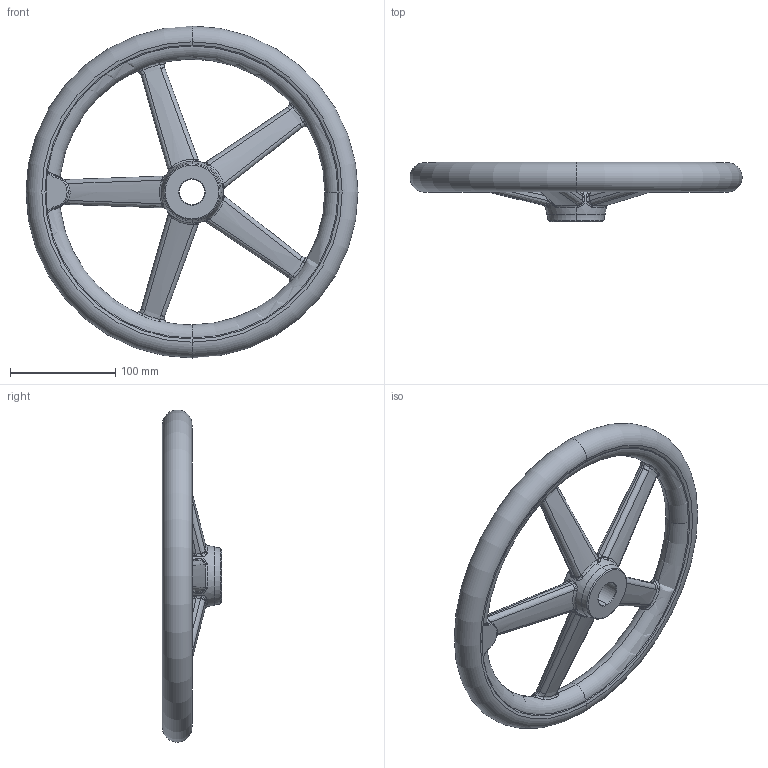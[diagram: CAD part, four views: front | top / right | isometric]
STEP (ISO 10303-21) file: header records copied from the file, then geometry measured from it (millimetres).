
FILE_DESCRIPTION (( 'STEP AP203' ), '1' );
FILE_NAME ('din950_a4_315x24.step', '2010-03-23T09:59:21', ( '_' ), ( '_' ), 'SwSTEP 2.0', 'SolidWorks 2010', '' );
FILE_SCHEMA (( 'CONFIG_CONTROL_DESIGN' ));
Length unit declared in the file: millimetre
Products named in the file (1): din950_a4_315x24
Bounding box: 314.89 x 56 x 314.89 mm (x, y, z)
Volume: 851680.7 mm3; surface area: 127855.6 mm2
Topology: 1 solids, 1 shells, 267 faces, 664 edges, 345 vertices
Faces by surface type: bspline 208, torus 20, cone 17, plane 14, cylinder 8
Entity records: 51405 total; most frequent: CARTESIAN_POINT 46547, ORIENTED_EDGE 1240, EDGE_CURVE 620, DIRECTION 579, B_SPLINE_CURVE_WITH_KNOTS 379, VERTEX_POINT 345, AXIS2_PLACEMENT_3D 278, EDGE_LOOP 269
